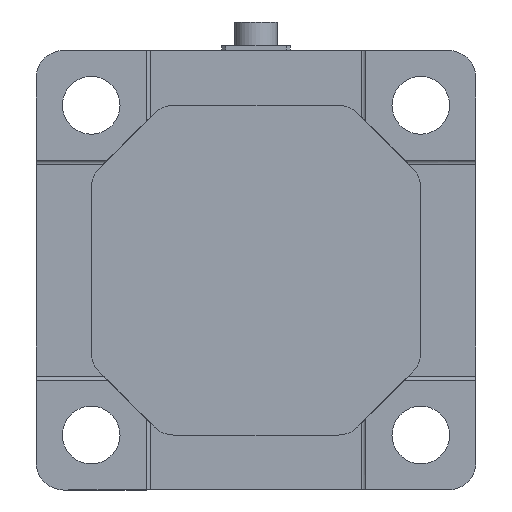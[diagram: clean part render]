
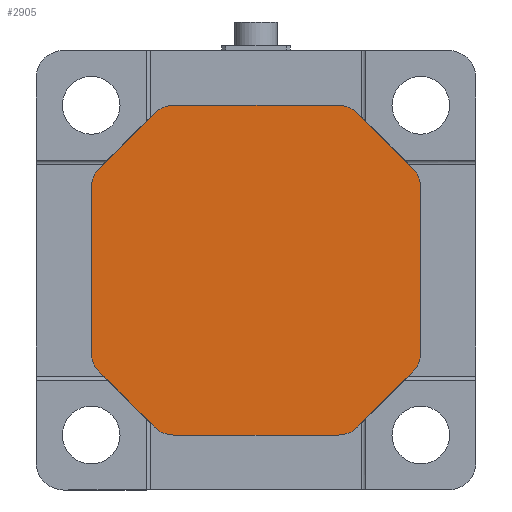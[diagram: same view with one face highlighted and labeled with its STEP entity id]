
A CAD part, front view. The second image highlights one B-rep face of the part: STEP entity #2905.
In plain terms, the highlighted planar face has unit normal (0, -1, 0).
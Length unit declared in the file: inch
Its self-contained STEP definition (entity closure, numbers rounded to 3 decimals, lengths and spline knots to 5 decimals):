
#29 = VERTEX_POINT ( 'NONE', #658 ) ;
#32 = VERTEX_POINT ( 'NONE', #1450 ) ;
#52 = FACE_OUTER_BOUND ( 'NONE', #1886, .T. ) ;
#122 = ORIENTED_EDGE ( 'NONE', *, *, #1261, .F. ) ;
#124 = VECTOR ( 'NONE', #2408, 39.37008 ) ;
#140 = LINE ( 'NONE', #156, #1420 ) ;
#154 = VERTEX_POINT ( 'NONE', #504 ) ;
#156 = CARTESIAN_POINT ( 'NONE',  ( 2.625, 0.0625, -2.25 ) ) ;
#171 = DIRECTION ( 'NONE',  ( 0., 1., 0. ) ) ;
#209 = DIRECTION ( 'NONE',  ( 1., 0., 0. ) ) ;
#217 = LINE ( 'NONE', #376, #124 ) ;
#249 = ORIENTED_EDGE ( 'NONE', *, *, #2664, .F. ) ;
#252 = EDGE_CURVE ( 'NONE', #2985, #154, #1913, .T. ) ;
#256 = AXIS2_PLACEMENT_3D ( 'NONE', #1936, #1652, #3165 ) ;
#282 = ORIENTED_EDGE ( 'NONE', *, *, #252, .F. ) ;
#315 = DIRECTION ( 'NONE',  ( 0., 1., 0. ) ) ;
#376 = CARTESIAN_POINT ( 'NONE',  ( 2.14017, 0.0625, -1.39017 ) ) ;
#378 = VERTEX_POINT ( 'NONE', #411 ) ;
#381 = EDGE_CURVE ( 'NONE', #29, #2254, #140, .T. ) ;
#395 = VECTOR ( 'NONE', #3085, 39.37008 ) ;
#411 = CARTESIAN_POINT ( 'NONE',  ( -1.125, 0.0625, 2.25 ) ) ;
#418 = ORIENTED_EDGE ( 'NONE', *, *, #479, .F. ) ;
#438 = VECTOR ( 'NONE', #2057, 39.37008 ) ;
#479 = EDGE_CURVE ( 'NONE', #378, #1046, #2013, .T. ) ;
#504 = CARTESIAN_POINT ( 'NONE',  ( -1.39017, 0.0625, 2.14017 ) ) ;
#593 = LINE ( 'NONE', #1688, #2559 ) ;
#609 = CARTESIAN_POINT ( 'NONE',  ( 1.125, 0.0625, 1.875 ) ) ;
#619 = ORIENTED_EDGE ( 'NONE', *, *, #1579, .F. ) ;
#658 = CARTESIAN_POINT ( 'NONE',  ( 1.125, 0.0625, -2.25 ) ) ;
#702 = ORIENTED_EDGE ( 'NONE', *, *, #878, .F. ) ;
#707 = CIRCLE ( 'NONE', #1911, 0.375 ) ;
#775 = DIRECTION ( 'NONE',  ( 0., 0., -1. ) ) ;
#779 = ORIENTED_EDGE ( 'NONE', *, *, #2968, .F. ) ;
#790 = VERTEX_POINT ( 'NONE', #2938 ) ;
#796 = CARTESIAN_POINT ( 'NONE',  ( 2.14017, 0.0625, 1.39017 ) ) ;
#797 = CARTESIAN_POINT ( 'NONE',  ( -1.39017, 0.0625, -2.14017 ) ) ;
#837 = EDGE_CURVE ( 'NONE', #2847, #1360, #1654, .T. ) ;
#878 = EDGE_CURVE ( 'NONE', #1382, #1929, #593, .T. ) ;
#880 = CIRCLE ( 'NONE', #2812, 0.375 ) ;
#911 = VERTEX_POINT ( 'NONE', #2531 ) ;
#980 = EDGE_CURVE ( 'NONE', #32, #3152, #1104, .T. ) ;
#1026 = CARTESIAN_POINT ( 'NONE',  ( -1.875, 0.0625, 1.125 ) ) ;
#1046 = VERTEX_POINT ( 'NONE', #1822 ) ;
#1058 = LINE ( 'NONE', #1306, #395 ) ;
#1104 = LINE ( 'NONE', #2339, #438 ) ;
#1134 = EDGE_CURVE ( 'NONE', #154, #378, #880, .T. ) ;
#1164 = EDGE_CURVE ( 'NONE', #1748, #29, #707, .T. ) ;
#1212 = ORIENTED_EDGE ( 'NONE', *, *, #1164, .F. ) ;
#1261 = EDGE_CURVE ( 'NONE', #1360, #790, #2901, .T. ) ;
#1304 = CARTESIAN_POINT ( 'NONE',  ( 2.625, 0.0625, 2.625 ) ) ;
#1306 = CARTESIAN_POINT ( 'NONE',  ( 1.39017, 0.0625, 2.14017 ) ) ;
#1353 = DIRECTION ( 'NONE',  ( 0., 0., -1. ) ) ;
#1356 = DIRECTION ( 'NONE',  ( 0., 0., -1. ) ) ;
#1360 = VERTEX_POINT ( 'NONE', #3098 ) ;
#1369 = CARTESIAN_POINT ( 'NONE',  ( 2.24639, 0.0625, 2.625 ) ) ;
#1382 = VERTEX_POINT ( 'NONE', #797 ) ;
#1420 = VECTOR ( 'NONE', #3221, 39.37008 ) ;
#1437 = EDGE_CURVE ( 'NONE', #911, #2845, #1058, .T. ) ;
#1446 = EDGE_CURVE ( 'NONE', #3152, #2985, #2392, .T. ) ;
#1450 = CARTESIAN_POINT ( 'NONE',  ( -2.24639, 0.0625, -1.07311 ) ) ;
#1456 = CARTESIAN_POINT ( 'NONE',  ( 1.875, 0.0625, 1.125 ) ) ;
#1495 = AXIS2_PLACEMENT_3D ( 'NONE', #2293, #2825, #1802 ) ;
#1499 = VECTOR ( 'NONE', #209, 39.37008 ) ;
#1551 = DIRECTION ( 'NONE',  ( 0., 1., 0. ) ) ;
#1565 = VECTOR ( 'NONE', #2676, 39.37008 ) ;
#1579 = EDGE_CURVE ( 'NONE', #1046, #911, #2075, .T. ) ;
#1583 = ORIENTED_EDGE ( 'NONE', *, *, #381, .F. ) ;
#1596 = DIRECTION ( 'NONE',  ( 0., 0., -1. ) ) ;
#1639 = DIRECTION ( 'NONE',  ( 0., 0., -1. ) ) ;
#1652 = DIRECTION ( 'NONE',  ( 0., 1., 0. ) ) ;
#1654 = LINE ( 'NONE', #1369, #1565 ) ;
#1688 = CARTESIAN_POINT ( 'NONE',  ( -1.39017, 0.0625, -2.14017 ) ) ;
#1700 = AXIS2_PLACEMENT_3D ( 'NONE', #1026, #2829, #1356 ) ;
#1722 = DIRECTION ( 'NONE',  ( -0.707, 0., 0.707 ) ) ;
#1731 = AXIS2_PLACEMENT_3D ( 'NONE', #1304, #1804, #2058 ) ;
#1747 = CARTESIAN_POINT ( 'NONE',  ( 2.625, 0.0625, 2.25 ) ) ;
#1748 = VERTEX_POINT ( 'NONE', #2247 ) ;
#1795 = CIRCLE ( 'NONE', #1495, 0.375 ) ;
#1802 = DIRECTION ( 'NONE',  ( 0., 0., -1. ) ) ;
#1804 = DIRECTION ( 'NONE',  ( 0., 1., 0. ) ) ;
#1822 = CARTESIAN_POINT ( 'NONE',  ( 1.125, 0.0625, 2.25 ) ) ;
#1829 = CARTESIAN_POINT ( 'NONE',  ( -1.875, 0.0625, -1.125 ) ) ;
#1831 = ORIENTED_EDGE ( 'NONE', *, *, #980, .F. ) ;
#1846 = PLANE ( 'NONE',  #1731 ) ;
#1883 = CARTESIAN_POINT ( 'NONE',  ( 1.125, 0.0625, -1.875 ) ) ;
#1886 = EDGE_LOOP ( 'NONE', ( #2529, #702, #1908, #1583, #1212, #779, #122, #2583, #249, #3239, #619, #418, #2832, #282, #2298, #1831 ) ) ;
#1908 = ORIENTED_EDGE ( 'NONE', *, *, #1958, .F. ) ;
#1911 = AXIS2_PLACEMENT_3D ( 'NONE', #1883, #2645, #1639 ) ;
#1913 = LINE ( 'NONE', #3139, #2470 ) ;
#1929 = VERTEX_POINT ( 'NONE', #2791 ) ;
#1936 = CARTESIAN_POINT ( 'NONE',  ( 1.875, 0.0625, -1.125 ) ) ;
#1958 = EDGE_CURVE ( 'NONE', #2254, #1382, #1795, .T. ) ;
#2004 = AXIS2_PLACEMENT_3D ( 'NONE', #609, #2853, #1596 ) ;
#2013 = LINE ( 'NONE', #1747, #1499 ) ;
#2057 = DIRECTION ( 'NONE',  ( 0., 0., 1. ) ) ;
#2058 = DIRECTION ( 'NONE',  ( 0., 0., 1. ) ) ;
#2075 = CIRCLE ( 'NONE', #2004, 0.375 ) ;
#2160 = DIRECTION ( 'NONE',  ( 0.707, 0., 0.707 ) ) ;
#2179 = AXIS2_PLACEMENT_3D ( 'NONE', #1829, #1551, #775 ) ;
#2247 = CARTESIAN_POINT ( 'NONE',  ( 1.39017, 0.0625, -2.14017 ) ) ;
#2254 = VERTEX_POINT ( 'NONE', #2725 ) ;
#2262 = CARTESIAN_POINT ( 'NONE',  ( -2.24639, 0.0625, 1.07311 ) ) ;
#2293 = CARTESIAN_POINT ( 'NONE',  ( -1.125, 0.0625, -1.875 ) ) ;
#2298 = ORIENTED_EDGE ( 'NONE', *, *, #1446, .F. ) ;
#2339 = CARTESIAN_POINT ( 'NONE',  ( -2.24639, 0.0625, 2.625 ) ) ;
#2382 = CARTESIAN_POINT ( 'NONE',  ( -1.125, 0.0625, 1.875 ) ) ;
#2392 = CIRCLE ( 'NONE', #1700, 0.375 ) ;
#2408 = DIRECTION ( 'NONE',  ( -0.707, 0., -0.707 ) ) ;
#2422 = CARTESIAN_POINT ( 'NONE',  ( -2.14017, 0.0625, 1.39017 ) ) ;
#2470 = VECTOR ( 'NONE', #2160, 39.37008 ) ;
#2492 = CIRCLE ( 'NONE', #2881, 0.375 ) ;
#2529 = ORIENTED_EDGE ( 'NONE', *, *, #3250, .F. ) ;
#2531 = CARTESIAN_POINT ( 'NONE',  ( 1.39017, 0.0625, 2.14017 ) ) ;
#2535 = CIRCLE ( 'NONE', #2179, 0.375 ) ;
#2559 = VECTOR ( 'NONE', #1722, 39.37008 ) ;
#2583 = ORIENTED_EDGE ( 'NONE', *, *, #837, .F. ) ;
#2645 = DIRECTION ( 'NONE',  ( 0., 1., 0. ) ) ;
#2664 = EDGE_CURVE ( 'NONE', #2845, #2847, #2492, .T. ) ;
#2676 = DIRECTION ( 'NONE',  ( 0., 0., -1. ) ) ;
#2725 = CARTESIAN_POINT ( 'NONE',  ( -1.125, 0.0625, -2.25 ) ) ;
#2791 = CARTESIAN_POINT ( 'NONE',  ( -2.14017, 0.0625, -1.39017 ) ) ;
#2812 = AXIS2_PLACEMENT_3D ( 'NONE', #2382, #315, #1353 ) ;
#2825 = DIRECTION ( 'NONE',  ( 0., 1., 0. ) ) ;
#2829 = DIRECTION ( 'NONE',  ( 0., 1., 0. ) ) ;
#2832 = ORIENTED_EDGE ( 'NONE', *, *, #1134, .F. ) ;
#2845 = VERTEX_POINT ( 'NONE', #796 ) ;
#2847 = VERTEX_POINT ( 'NONE', #3106 ) ;
#2853 = DIRECTION ( 'NONE',  ( 0., 1., 0. ) ) ;
#2881 = AXIS2_PLACEMENT_3D ( 'NONE', #1456, #171, #3233 ) ;
#2901 = CIRCLE ( 'NONE', #256, 0.375 ) ;
#2905 = ADVANCED_FACE ( 'NONE', ( #52 ), #1846, .F. ) ;
#2938 = CARTESIAN_POINT ( 'NONE',  ( 2.14017, 0.0625, -1.39017 ) ) ;
#2968 = EDGE_CURVE ( 'NONE', #790, #1748, #217, .T. ) ;
#2985 = VERTEX_POINT ( 'NONE', #2422 ) ;
#3085 = DIRECTION ( 'NONE',  ( 0.707, 0., -0.707 ) ) ;
#3098 = CARTESIAN_POINT ( 'NONE',  ( 2.24639, 0.0625, -1.07311 ) ) ;
#3106 = CARTESIAN_POINT ( 'NONE',  ( 2.24639, 0.0625, 1.07311 ) ) ;
#3139 = CARTESIAN_POINT ( 'NONE',  ( -2.14017, 0.0625, 1.39017 ) ) ;
#3152 = VERTEX_POINT ( 'NONE', #2262 ) ;
#3165 = DIRECTION ( 'NONE',  ( 0., 0., -1. ) ) ;
#3221 = DIRECTION ( 'NONE',  ( -1., 0., 0. ) ) ;
#3233 = DIRECTION ( 'NONE',  ( 0., 0., -1. ) ) ;
#3239 = ORIENTED_EDGE ( 'NONE', *, *, #1437, .F. ) ;
#3250 = EDGE_CURVE ( 'NONE', #1929, #32, #2535, .T. ) ;
